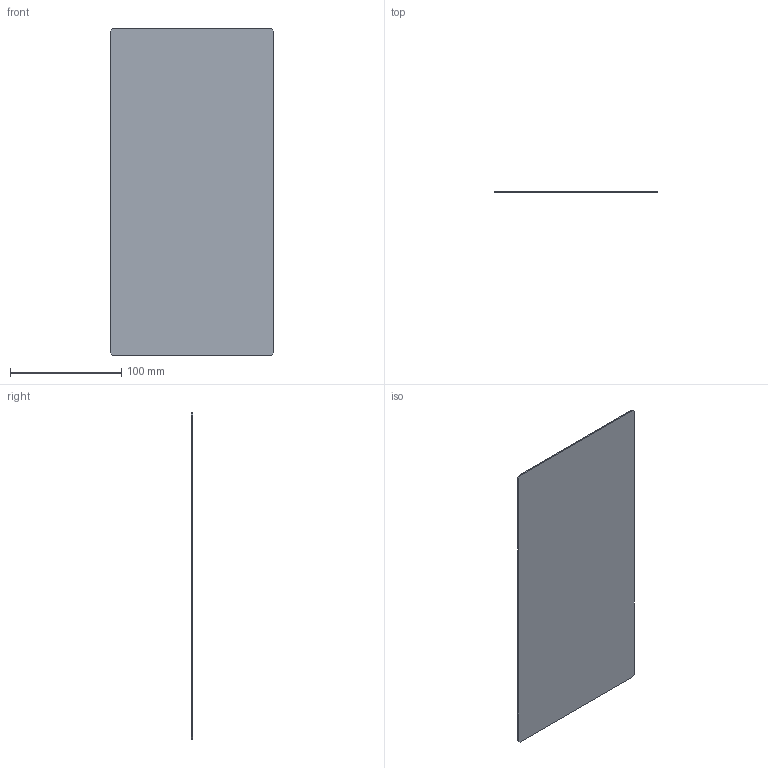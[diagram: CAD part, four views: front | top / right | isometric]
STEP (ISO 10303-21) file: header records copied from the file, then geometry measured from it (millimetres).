
FILE_DESCRIPTION(('CAx-IF Rec.Pracs.---Model Styling and Organization---1.2---2011-12-15','CAx-IF Rec.Pracs.---Geometric and Assembly Validation Properties---4.1---2014-06-16','CAx-IF Rec.Pracs.---PMI Polyline Presentation---2.0---2013-05-24'),'2;1');
FILE_NAME('R5M2W3MFC.stp','2021-05-05T12:54:03+03:00',(''),(''),'STEP Interface 4.4 by CT CoreTechnologie','3D_Evolution4.4 by CT CoreTechnologie','');
FILE_SCHEMA(('AUTOMOTIVE_DESIGN { 1 0 10303 214 1 1 1 1 }'));
Length unit declared in the file: millimetre
Products named in the file (2): R5M2W3MFÑ; RB.1389.00.00.0_-02
Assembly tree (1 placements, depth 2):
  R5M2W3MFÑ
    RB.1389.00.00.0_-02
Bounding box: 147 x 1 x 293 mm (x, y, z)
Surface area: 87001.3 mm2 (no closed solid volume)
Topology: 0 solids, 1 shells, 10 faces, 24 edges, 16 vertices
Faces by surface type: plane 10
Entity records: 361 total; most frequent: CARTESIAN_POINT 52, DIRECTION 48, ORIENTED_EDGE 48, VECTOR 24, LINE 24, EDGE_CURVE 24, VERTEX_POINT 16, AXIS2_PLACEMENT_3D 12
